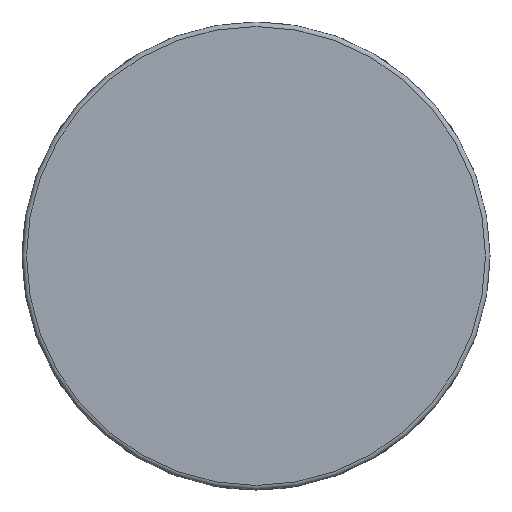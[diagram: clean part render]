
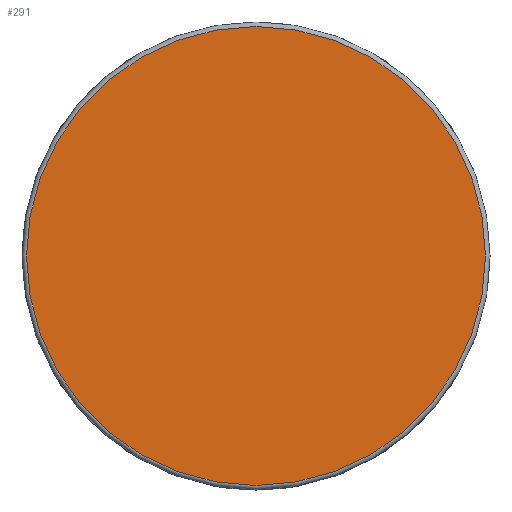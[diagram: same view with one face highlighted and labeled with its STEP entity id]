
A CAD part, front view. The second image highlights one B-rep face of the part: STEP entity #291.
In plain terms, the highlighted planar face has unit normal (0, -1, 0).
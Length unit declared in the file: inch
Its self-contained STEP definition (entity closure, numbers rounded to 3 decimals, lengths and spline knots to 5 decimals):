
#18=PLANE('',#331);
#51=FACE_OUTER_BOUND('',#68,.T.);
#68=EDGE_LOOP('',(#215,#216));
#86=CIRCLE('',#323,0.3025);
#90=CIRCLE('',#327,0.3025);
#124=VERTEX_POINT('',#576);
#125=VERTEX_POINT('',#577);
#157=EDGE_CURVE('',#124,#125,#86,.T.);
#161=EDGE_CURVE('',#125,#124,#90,.T.);
#215=ORIENTED_EDGE('',*,*,#157,.F.);
#216=ORIENTED_EDGE('',*,*,#161,.F.);
#291=ADVANCED_FACE('',(#51),#18,.T.);
#323=AXIS2_PLACEMENT_3D('',#578,#382,#383);
#327=AXIS2_PLACEMENT_3D('',#584,#390,#391);
#331=AXIS2_PLACEMENT_3D('',#591,#399,#400);
#382=DIRECTION('center_axis',(0.,1.,0.));
#383=DIRECTION('ref_axis',(0.,0.,1.));
#390=DIRECTION('center_axis',(0.,1.,0.));
#391=DIRECTION('ref_axis',(0.,0.,1.));
#399=DIRECTION('center_axis',(0.,-1.,0.));
#400=DIRECTION('ref_axis',(0.,0.,-1.));
#576=CARTESIAN_POINT('',(0.,0.,-0.3025));
#577=CARTESIAN_POINT('',(0.,0.,0.3025));
#578=CARTESIAN_POINT('Origin',(0.,0.,0.));
#584=CARTESIAN_POINT('Origin',(0.,0.,0.));
#591=CARTESIAN_POINT('Origin',(0.,0.,0.));
